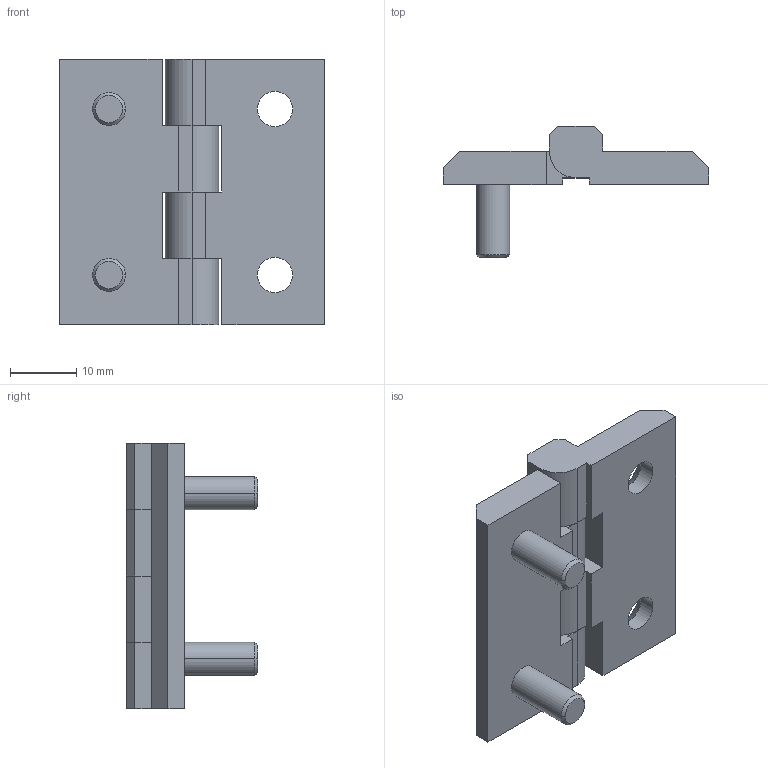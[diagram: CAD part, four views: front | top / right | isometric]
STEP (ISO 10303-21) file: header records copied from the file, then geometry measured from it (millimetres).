
FILE_DESCRIPTION(('STEP AP203'),'1');
FILE_NAME(' ',' ',('TraceParts'),('TraceParts S.A.'),'XStep 1.0',' ',' ');
FILE_SCHEMA(('CONFIG_CONTROL_DESIGN'));
Length unit declared in the file: millimetre
Products named in the file (2): 1; 2
Bounding box: 40 x 19.75 x 40 mm (x, y, z)
Volume: 8485.3 mm3; surface area: 5615.5 mm2
Topology: 2 solids, 2 shells, 81 faces, 220 edges, 144 vertices
Faces by surface type: plane 53, cylinder 20, cone 8
Entity records: 2650 total; most frequent: CARTESIAN_POINT 447, ORIENTED_EDGE 440, DIRECTION 438, EDGE_CURVE 220, LINE 168, VECTOR 168, VERTEX_POINT 144, AXIS2_PLACEMENT_3D 135
